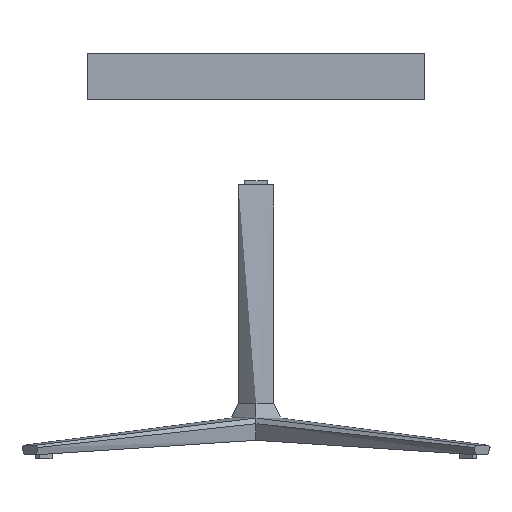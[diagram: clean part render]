
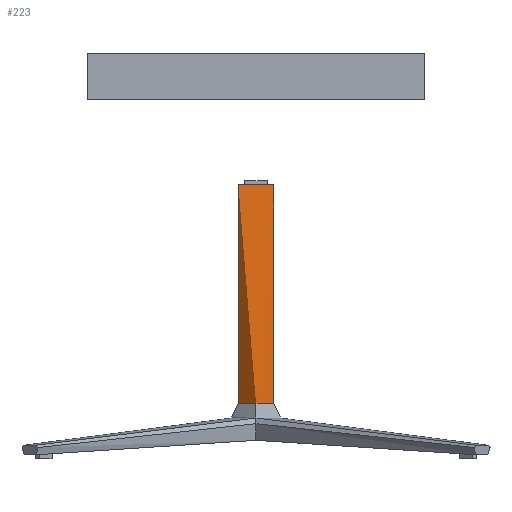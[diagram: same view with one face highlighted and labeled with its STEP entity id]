
A CAD part, left-side view. The second image highlights one B-rep face of the part: STEP entity #223.
In plain terms, the highlighted free-form (B-spline) face has degree [2, 1] with [5, 2] control points.
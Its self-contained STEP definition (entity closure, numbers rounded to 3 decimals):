
#18=(
BOUNDED_CURVE()
B_SPLINE_CURVE(2,(#12239,#12240,#12241),.UNSPECIFIED.,.F.,.F.)
B_SPLINE_CURVE_WITH_KNOTS((3,3),(0.,31.416),.UNSPECIFIED.)
CURVE()
GEOMETRIC_REPRESENTATION_ITEM()
RATIONAL_B_SPLINE_CURVE((1.,0.707,1.))
REPRESENTATION_ITEM('')
);
#19=(
BOUNDED_CURVE()
B_SPLINE_CURVE(2,(#12242,#12243,#12244),.UNSPECIFIED.,.F.,.F.)
B_SPLINE_CURVE_WITH_KNOTS((3,3),(31.416,62.832),
 .UNSPECIFIED.)
CURVE()
GEOMETRIC_REPRESENTATION_ITEM()
RATIONAL_B_SPLINE_CURVE((1.,0.707,1.))
REPRESENTATION_ITEM('')
);
#92=(
BOUNDED_CURVE()
B_SPLINE_CURVE(1,(#14395,#14396),.UNSPECIFIED.,.F.,.F.)
B_SPLINE_CURVE_WITH_KNOTS((2,2),(0.,177.),.UNSPECIFIED.)
CURVE()
GEOMETRIC_REPRESENTATION_ITEM()
RATIONAL_B_SPLINE_CURVE((1.,1.))
REPRESENTATION_ITEM('')
);
#93=(
BOUNDED_CURVE()
B_SPLINE_CURVE(2,(#14397,#14398,#14399,#14400,#14401),.UNSPECIFIED.,.F.,
 .F.)
B_SPLINE_CURVE_WITH_KNOTS((3,2,3),(-62.832,-31.416,
0.),.UNSPECIFIED.)
CURVE()
GEOMETRIC_REPRESENTATION_ITEM()
RATIONAL_B_SPLINE_CURVE((1.,0.707,1.,0.707,1.))
REPRESENTATION_ITEM('')
);
#144=(
BOUNDED_SURFACE()
B_SPLINE_SURFACE(2,1,((#12166,#12167),(#12168,#12169),(#12170,#12171),(#12172,
#12173),(#12174,#12175)),.UNSPECIFIED.,.F.,.F.,.F.)
B_SPLINE_SURFACE_WITH_KNOTS((3,2,3),(2,2),(-62.832,-31.416,
0.),(0.,177.),.UNSPECIFIED.)
GEOMETRIC_REPRESENTATION_ITEM()
RATIONAL_B_SPLINE_SURFACE(((1.,1.),(0.707,0.707),
(1.,1.),(0.707,0.707),(1.,1.)))
REPRESENTATION_ITEM('')
SURFACE()
);
#223=ADVANCED_FACE('',(#291),#144,.T.);
#291=FACE_OUTER_BOUND('',#360,.T.);
#360=EDGE_LOOP('',(#617,#618,#619,#620,#621));
#617=ORIENTED_EDGE('',*,*,#776,.T.);
#618=ORIENTED_EDGE('',*,*,#699,.T.);
#619=ORIENTED_EDGE('',*,*,#700,.T.);
#620=ORIENTED_EDGE('',*,*,#701,.T.);
#621=ORIENTED_EDGE('',*,*,#775,.F.);
#699=EDGE_CURVE('',#824,#825,#952,.T.);
#700=EDGE_CURVE('',#825,#865,#18,.T.);
#701=EDGE_CURVE('',#865,#864,#19,.T.);
#775=EDGE_CURVE('',#867,#864,#92,.T.);
#776=EDGE_CURVE('',#867,#824,#93,.T.);
#824=VERTEX_POINT('',#12186);
#825=VERTEX_POINT('',#12187);
#864=VERTEX_POINT('',#12226);
#865=VERTEX_POINT('',#12227);
#867=VERTEX_POINT('',#12229);
#952=B_SPLINE_CURVE_WITH_KNOTS('',1,(#12237,#12238),.UNSPECIFIED.,.F.,.F.,
(2,2),(0.,177.),.UNSPECIFIED.);
#12166=CARTESIAN_POINT('',(0.,-20.,310.));
#12167=CARTESIAN_POINT('',(0.,-20.,63.));
#12168=CARTESIAN_POINT('',(-20.,-20.,310.));
#12169=CARTESIAN_POINT('',(-20.,-20.,63.));
#12170=CARTESIAN_POINT('',(-20.,0.,310.));
#12171=CARTESIAN_POINT('',(-20.,0.,63.));
#12172=CARTESIAN_POINT('',(-20.,20.,310.));
#12173=CARTESIAN_POINT('',(-20.,20.,63.));
#12174=CARTESIAN_POINT('',(0.,20.,310.));
#12175=CARTESIAN_POINT('',(0.,20.,63.));
#12186=CARTESIAN_POINT('',(0.,20.,310.));
#12187=CARTESIAN_POINT('',(0.,20.,63.));
#12226=CARTESIAN_POINT('',(0.,-20.,63.));
#12227=CARTESIAN_POINT('',(-20.,0.,63.));
#12229=CARTESIAN_POINT('',(0.,-20.,310.));
#12237=CARTESIAN_POINT('',(0.,20.,310.));
#12238=CARTESIAN_POINT('',(0.,20.,63.));
#12239=CARTESIAN_POINT('',(0.,20.,63.));
#12240=CARTESIAN_POINT('',(-20.,20.,63.));
#12241=CARTESIAN_POINT('',(-20.,0.,63.));
#12242=CARTESIAN_POINT('',(-20.,0.,63.));
#12243=CARTESIAN_POINT('',(-20.,-20.,63.));
#12244=CARTESIAN_POINT('',(0.,-20.,63.));
#14395=CARTESIAN_POINT('',(0.,-20.,310.));
#14396=CARTESIAN_POINT('',(0.,-20.,63.));
#14397=CARTESIAN_POINT('',(0.,-20.,310.));
#14398=CARTESIAN_POINT('',(-20.,-20.,310.));
#14399=CARTESIAN_POINT('',(-20.,0.,310.));
#14400=CARTESIAN_POINT('',(-20.,20.,310.));
#14401=CARTESIAN_POINT('',(0.,20.,310.));
